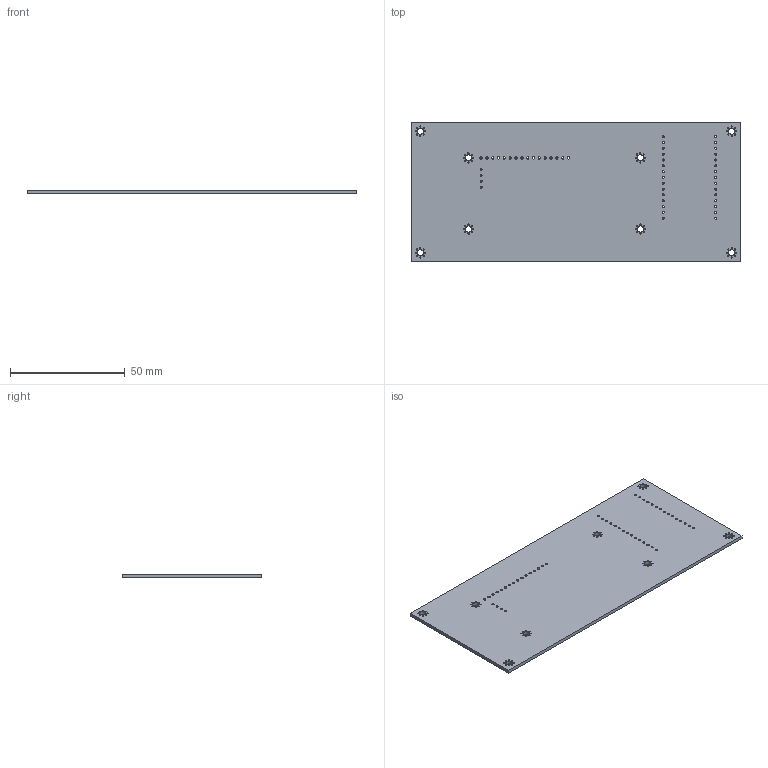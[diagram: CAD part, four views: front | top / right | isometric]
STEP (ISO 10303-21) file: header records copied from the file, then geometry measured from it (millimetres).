
FILE_DESCRIPTION(('KiCad electronic assembly'),'2;1');
FILE_NAME('Resize_Shelf_1.step','2026-02-23T20:40:52',('Pcbnew'),( 'Kicad'),'Open CASCADE STEP processor 7.9','KiCad to STEP converter' ,'Unknown');
FILE_SCHEMA(('AUTOMOTIVE_DESIGN { 1 0 10303 214 1 1 1 1 }'));
Length unit declared in the file: millimetre
Products named in the file (2): Resize_Shelf_1 1; Resize_Shelf_1_PCB
Assembly tree (1 placements, depth 2):
  Resize_Shelf_1 1
    Resize_Shelf_1_PCB
Bounding box: 143.6 x 61 x 1.51 mm (x, y, z)
Volume: 13086.6 mm3; surface area: 18427.7 mm2
Topology: 1 solids, 1 shells, 128 faces, 378 edges, 252 vertices
Faces by surface type: cylinder 122, plane 6
Full cylindrical faces by diameter (mm): 0.5 x64, 0.9 x34, 1.016 x16, 2.7 x8
Entity records: 4951 total; most frequent: DIRECTION 882, CARTESIAN_POINT 760, ORIENTED_EDGE 756, EDGE_CURVE 378, AXIS2_PLACEMENT_3D 374, FACE_BOUND 372, EDGE_LOOP 372, VERTEX_POINT 252
